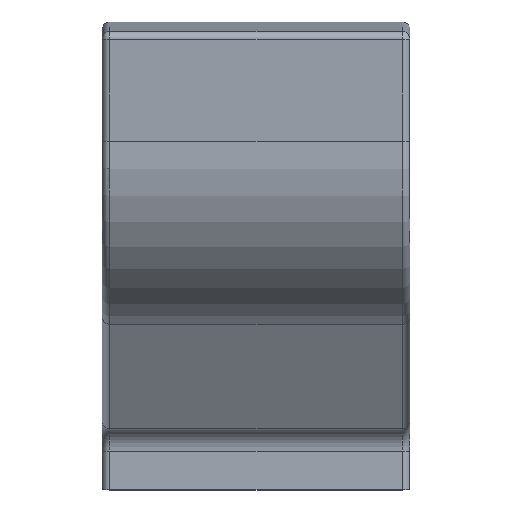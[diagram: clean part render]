
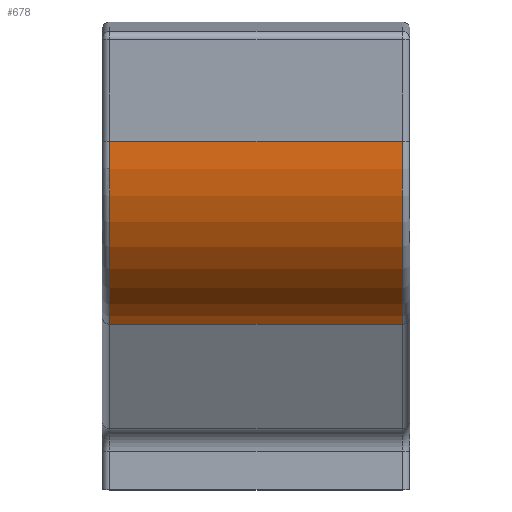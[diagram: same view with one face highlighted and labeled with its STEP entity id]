
A CAD part, top view. The second image highlights one B-rep face of the part: STEP entity #678.
In plain terms, the highlighted cylindrical face has radius 0.228 mm (diameter 0.457 mm), a partial arc.
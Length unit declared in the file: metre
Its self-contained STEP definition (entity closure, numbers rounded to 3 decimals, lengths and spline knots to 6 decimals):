
#76=LINE('',#1467,#120);
#79=LINE('',#1474,#123);
#120=VECTOR('',#1230,1.);
#123=VECTOR('',#1241,1.);
#261=ORIENTED_EDGE('',*,*,#392,.F.);
#262=ORIENTED_EDGE('',*,*,#330,.T.);
#263=ORIENTED_EDGE('',*,*,#396,.F.);
#264=ORIENTED_EDGE('',*,*,#397,.T.);
#330=EDGE_CURVE('',#415,#408,#463,.T.);
#392=EDGE_CURVE('',#415,#434,#76,.T.);
#396=EDGE_CURVE('',#421,#408,#79,.T.);
#397=EDGE_CURVE('',#421,#434,#495,.T.);
#408=VERTEX_POINT('',#1286);
#415=VERTEX_POINT('',#1327);
#421=VERTEX_POINT('',#1347);
#434=VERTEX_POINT('',#1403);
#463=CIRCLE('',#971,0.000228);
#495=CIRCLE('',#1030,0.000228);
#532=EDGE_LOOP('',(#261,#262,#263,#264));
#574=FACE_BOUND('',#532,.T.);
#601=CYLINDRICAL_SURFACE('',#1029,0.000228);
#678=ADVANCED_FACE('',(#574),#601,.T.);
#971=AXIS2_PLACEMENT_3D('',#1326,#1090,#1091);
#1029=AXIS2_PLACEMENT_3D('',#1473,#1239,#1240);
#1030=AXIS2_PLACEMENT_3D('',#1475,#1242,#1243);
#1090=DIRECTION('',(-1.,0.,0.));
#1091=DIRECTION('',(0.,0.,-1.));
#1230=DIRECTION('',(-1.,0.,0.));
#1239=DIRECTION('',(-1.,0.,0.));
#1240=DIRECTION('',(0.,0.,-1.));
#1241=DIRECTION('',(1.,0.,0.));
#1242=DIRECTION('',(1.,0.,0.));
#1243=DIRECTION('',(0.,0.,1.));
#1286=CARTESIAN_POINT('',(-0.096881,-0.01073,0.007891));
#1326=CARTESIAN_POINT('',(-0.096881,-0.010743,0.007663));
#1327=CARTESIAN_POINT('',(-0.096881,-0.010966,0.007714));
#1347=CARTESIAN_POINT('',(-0.097259,-0.01073,0.007891));
#1403=CARTESIAN_POINT('',(-0.097259,-0.010966,0.007714));
#1467=CARTESIAN_POINT('',(-0.097269,-0.010966,0.007714));
#1473=CARTESIAN_POINT('',(-0.09707,-0.010743,0.007663));
#1474=CARTESIAN_POINT('',(-0.09707,-0.01073,0.007891));
#1475=CARTESIAN_POINT('',(-0.097259,-0.010743,0.007663));
